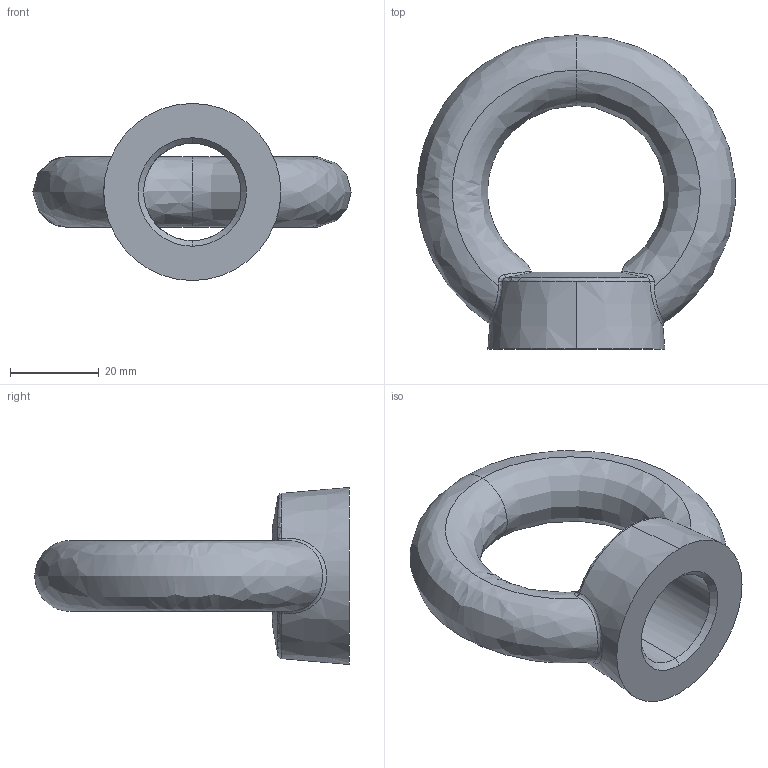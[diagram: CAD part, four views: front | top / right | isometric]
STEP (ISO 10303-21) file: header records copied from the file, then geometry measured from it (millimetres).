
FILE_DESCRIPTION (( 'STEP AP203' ), '1' );
FILE_NAME ('P4041.200-ZP.step', '2023-04-16T08:00:22', ( '' ), ( '' ), 'SwSTEP 2.0', 'SolidWorks 2019', '' );
FILE_SCHEMA (( 'CONFIG_CONTROL_DESIGN' ));
Length unit declared in the file: millimetre
Products named in the file (1): P4041.200-ZP
Bounding box: 71.87 x 70.99 x 40 mm (x, y, z)
Volume: 40828.8 mm3; surface area: 11288.5 mm2
Topology: 1 solids, 1 shells, 27 faces, 69 edges, 41 vertices
Faces by surface type: bspline 14, cone 7, torus 3, cylinder 2, plane 1
Entity records: 3218 total; most frequent: CARTESIAN_POINT 2592, ORIENTED_EDGE 138, DIRECTION 87, EDGE_CURVE 69, VERTEX_POINT 41, AXIS2_PLACEMENT_3D 40, B_SPLINE_CURVE_WITH_KNOTS 34, EDGE_LOOP 28
